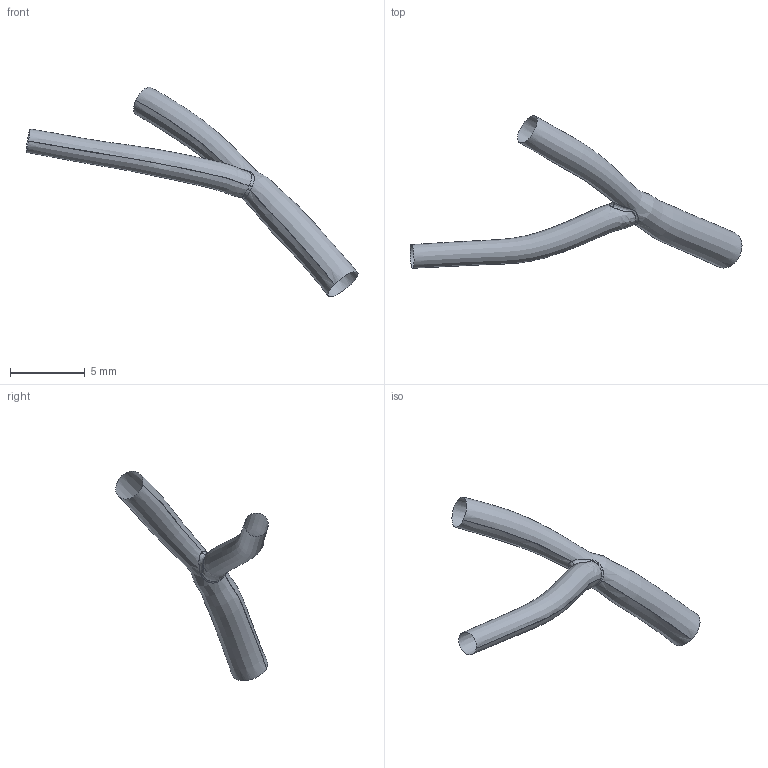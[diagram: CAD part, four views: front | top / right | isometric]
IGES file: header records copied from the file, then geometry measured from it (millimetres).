
Global section: file name: C:\Documents and Settings\Administrator\Desktop\FDA Bifurcation win\RawData_for_IGES\HRCA_Data\20010926.103228\IGES\20010926.103228.PDA.BIFUR.ES.igs; native system: Rhinoceros ( May 19 2006 ); preprocessor: Trout Lake IGES 012 May 19 2006; date: 100728.212612; units: centimetre
Bounding box: 22.16 x 10.18 x 13.99 mm (x, y, z)
Surface area: 215.6 mm2 (no closed solid volume)
Topology: 0 solids, 0 shells, 5 faces, 61 edges, 58 vertices
Faces by surface type: bspline 5
